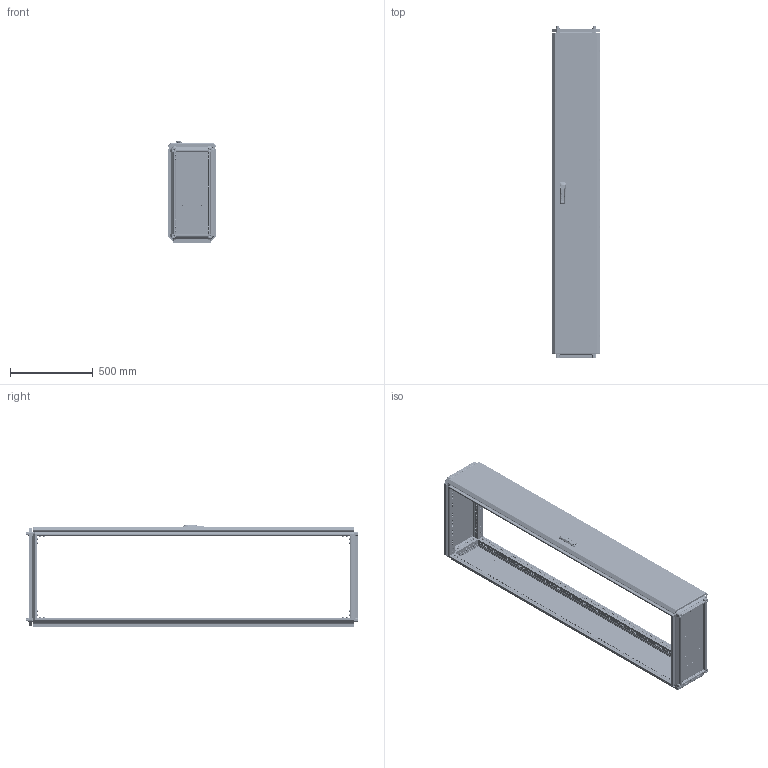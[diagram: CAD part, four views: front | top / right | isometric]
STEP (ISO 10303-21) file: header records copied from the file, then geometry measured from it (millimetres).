
FILE_DESCRIPTION (( 'STEP AP203' ), '1' );
FILE_NAME ('MA1.000.030620.10.00 AleSta2036 Øêàô AleSta 300õ600õ2000.STEP', '2024-08-23T08:18:32', ( '' ), ( '' ), 'SwSTEP 2.0', 'SolidWorks 2021', '' );
FILE_SCHEMA (( 'CONFIG_CONTROL_DESIGN' ));
Length unit declared in the file: millimetre
Products named in the file (50): MA1.200.060620.31.03 Ðåéêà íà äâåðü ãîðèçîíòàëüíàÿ Ø = 600_˜=300; 諘蜱齁罻 022 瀁錒瀔隮; ﾇﾀﾊﾋﾅﾏﾊﾀ ﾃﾀﾅﾗﾍﾀﾟ ﾘﾅﾑﾒﾈﾃﾐﾀﾍﾍﾀﾟ ﾑ ﾓﾌﾅﾍﾜﾘﾅﾍﾍﾛﾌ ﾁﾎﾐﾒﾎﾌ M4 X 11 (0.5-2.5 ﾌﾌ) HEX U-S ﾖﾈﾍﾊ; Îñü ïåòëè 4õ52_‚¨­â A.M4x0,5x40 ƒŽ‘’ 11644-75; MA1.101.060620.20.01 Ïîëîòíî íèæíåé ïàíåëè 600õ600_300å600; êðåïëåíèå_êðóãëîé_òÿãè_RG1020-1.stp; MA1.101.060620.20.00 Íèæíÿÿ ïàíåëü 600õ600_300å600; MA1.200.060620.31.01 Ïîëîòíî äâåðè ñïëîøíîé 2000õ600_2000å300; MA1.101.060620.00.02 Ïðîôèëü ïîïåðå÷íûé ñâàðíîé_01 L=498 (˜=600); ﾘ琺矜 65ﾃ 019 ﾃﾎﾑﾒ 6402-70_12; Âèíò_ðåçüáîâûäàâëèâàþùèé_Ì5õ12_DIN 7500E_Œ5å12; MA1.102.060620.00.01 Ïðîôèëü âåðòèêàëüíûé ñâàðíîé_04 L=1898 (‚=2000); MA1.200.060620.11.00 Ïàíåëü çàäíÿÿ, äëÿ øêàôîâ AleSta, 2000x600_2000å300; Øàéáà ñòîïîðíàÿ ñ íàðóæíûìè çóáöàìè SCHNORR, òèï VS öèíêîâûå õëîïüÿ Ì6 O6,4 ART 88121_Œ6; Âèíò ñ âí. øåñòèãðàííèêîì M12 DIN912_•30; MA1.200.060620.31.02 Ðåéêà íà äâåðü âåðòèêàëüíàÿ Â = 2000_‚ =2000; MA1.200.060620.31.04 ðèãåëü çàìêà äâåðè; MA1.102.060620.00.00 AleSta-VG2000 Ñòîéêè âåðòèêàëüíûå, Â=2000ìì  (4øò)_300å600; äåðæàòåëü_êðóãëîé_òÿãèRG002-RG1010-2-i-RG1010-3-.stp; Ãàéêà ñàìîêîíòðÿùàÿñÿ ñ íåéëîíîâîé âñòàâêîé Ì6 DIN 985, êëàññ ïðî÷íîñòè 8, îöèíêîâàííàÿ ñòàëü_Œ5; Óïëîòíèòåëü ïàíåëè íèæíåé_   ‚=2000; Âèíò_ðåçüáîâûäàâëèâàþùèé_Ì5õ12_DIN 7500E_00; Áîëò øåñòèãðàííûé Ì5õ12 DIN 933, êëàññ ïðî÷íîñòè 8.8, îöèíêîâàííàÿ ñòàëü; Íàâåñêà íà êîðïóñ ïîä êëåïêó; MA1.200.060620.31.05 Óãëîâîé óïîð äâåðíîé òÿãè; MA1.100.060620.00.01 Ñîåäèíèòåëü óãëîâîé_00; Âèíò ðåçüáîâûäàâëèâàþùèé Ì6õ12 DIN 7500E_Œ6å10; MA1.101.060620.20.02 Çàêðûòèå íèæíåé ïàíåëè 600õ600_300x600; MA1.101.060620.10.01 Ïîëîòíî êðûøè 600õ600_300x600; Âèíò ñàìîíàðåçàþùèé ñ ïîòàéíîé ãîëîâêîé Ì5x14 DIN 7500 M TORX, êëàññ ïðî÷íîñòè 8.8, îöèíêîâàííàÿ ñòàëü_Œ5å14; MA1.101.060620.00.02 Ïðîôèëü ïîïåðå÷íûé ñâàðíîé_03 L=198 (˜=300); MA1.101.060620.00.00 AleSta-RB66 Êîìïëåêò êðûøà è îñíîâàíèå_300x600; Øïèëüêà Ì6õ12_˜¯¨«ìª  Œ6å16; 7380-2 ISO Âèíòû ñ ïîëóêðóãëîé ãîëîâêîé ñ ôëàíöåì ñ âíóòðåííèì øåñòèãðàííèêîì Ì4õ10; MA1.200.060620.10.00 AleSta-PR206  Ïàíåëü çàäíÿÿ, äëÿ øêàôîâ ALESTA, 2000 x 600_2000å300; MA1.200.060620.30.00 AleSta-D20M600 Äâåðü ñïëîøíàÿ äëÿ øêàôîâ ALESTA ÂõØ 2000õ600_2000å300; ﾘ琺矜 01.019 ﾃﾎﾑﾒ11371-78_12; MA1.200.060620.31.00 Äâåðü ñïëîøíàÿ äëÿ øêàôîâ ALESTA ÂõØ 2000õ600_2000å300; MA1.000.030620.10.00 AleSta2036 Øêàô AleSta 300õ600õ2000; Øïèëüêà Ì6õ12_˜¯¨«ìª  Œ6å12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
Assembly tree (329 placements, depth 4):
  MA1.000.030620.10.00 AleSta2036 Øêàô AleSta 300õ600õ2000
    MA1.101.060620.00.00 AleSta-RB66 Êîìïëåêò êðûøà è îñíîâàíèå_300x600
      MA1.101.060620.00.02 Ïðîôèëü ïîïåðå÷íûé ñâàðíîé_01 L=498 (˜=600)  x4
      MA1.101.060620.00.02 Ïðîôèëü ïîïåðå÷íûé ñâàðíîé_03 L=198 (˜=300)  x4
      MA1.101.060620.10.00 Êðûøà 600x600_300å600
        MA1.101.060620.10.01 Ïîëîòíî êðûøè 600õ600_300x600
        Øïèëüêà Ì6õ12_˜¯¨«ìª  Œ6å12  x4
        Óïëîòíèòåëü ïàíåëè íèæíåé_300å600
      MA1.101.060620.20.00 Íèæíÿÿ ïàíåëü 600õ600_300å600
        MA1.101.060620.20.01 Ïîëîòíî íèæíåé ïàíåëè 600õ600_300å600
        ﾇﾀﾊﾋﾅﾏﾊﾀ ﾃﾀﾅﾗﾍﾀﾟ ﾘﾅﾑﾒﾈﾃﾐﾀﾍﾍﾀﾟ ﾑ ﾓﾌﾅﾍﾜﾘﾅﾍﾍﾛﾌ ﾁﾎﾐﾒﾎﾌ M4 X 11 (0.5-2.5 ﾌﾌ) HEX U-S ﾖﾈﾍﾊ  x4
        MA1.101.060620.20.02 Çàêðûòèå íèæíåé ïàíåëè 600õ600_300x600  x2
        7380-2 ISO Âèíòû ñ ïîëóêðóãëîé ãîëîâêîé ñ ôëàíöåì ñ âíóòðåííèì øåñòèãðàííèêîì Ì4õ10  x4
      Âèíò_ðåçüáîâûäàâëèâàþùèé_Ì5õ12_DIN 7500E_Œ5å12  x8
      MA1.100.060620.00.01 Ñîåäèíèòåëü óãëîâîé_00  x8
      Âèíò ñ âí. øåñòèãðàííèêîì M12 DIN912_•30  x4
      Âèíò ðåçüáîâûäàâëèâàþùèé Ì6õ12 DIN 7500E_Œ6å10  x96
      ﾘ琺矜 01.019 ﾃﾎﾑﾒ11371-78_12  x4
      ﾘ琺矜 65ﾃ 019 ﾃﾎﾑﾒ 6402-70_12  x4
      Øàéáà ñòîïîðíàÿ ñ íàðóæíûìè çóáöàìè SCHNORR, òèï VS öèíêîâûå õëîïüÿ Ì6 O6,4 ART 88121_Œ6  x80
    MA1.102.060620.00.00 AleSta-VG2000 Ñòîéêè âåðòèêàëüíûå, Â=2000ìì  (4øò)_300å600
      MA1.102.060620.00.01 Ïðîôèëü âåðòèêàëüíûé ñâàðíîé_04 L=1898 (‚=2000)  x4
    MA1.200.060620.10.00 AleSta-PR206  Ïàíåëü çàäíÿÿ, äëÿ øêàôîâ ALESTA, 2000 x 600_2000å300
      MA1.200.060620.11.00 Ïàíåëü çàäíÿÿ, äëÿ øêàôîâ AleSta, 2000x600_2000å300
        MA1.200.060620.11.01 Ïîëîòíî çàäíåé ïàíåëè 2000õ600_2000å300
        Óïëîòíèòåëü ïàíåëè íèæíåé_   ‚=2000
        Øïèëüêà Ì6õ12_˜¯¨«ìª  Œ6å12  x4
      Âèíò ñàìîíàðåçàþùèé ñ ïîòàéíîé ãîëîâêîé Ì5x14 DIN 7500 M TORX, êëàññ ïðî÷íîñòè 8.8, îöèíêîâàííàÿ ñòàëü_Œ5å14  x8
    MA1.200.060620.30.00 AleSta-D20M600 Äâåðü ñïëîøíàÿ äëÿ øêàôîâ ALESTA ÂõØ 2000õ600_2000å300
      MA1.200.060620.31.00 Äâåðü ñïëîøíàÿ äëÿ øêàôîâ ALESTA ÂõØ 2000õ600_2000å300
        MA1.200.060620.31.01 Ïîëîòíî äâåðè ñïëîøíîé 2000õ600_2000å300
        Óïëîòíèòåëü ïàíåëè íèæíåé_   ‚=2000
        Øïèëüêà Ì6õ12_˜¯¨«ìª  Œ6å20  x12
        Øïèëüêà Ì6õ12_˜¯¨«ìª  Œ6å16  x4
        Ïåòëÿ íà äâåðü ï-îáðàçíàÿ  x4
      MA1.200.060620.31.03 Ðåéêà íà äâåðü ãîðèçîíòàëüíàÿ Ø = 600_˜=300  x2
      諘蜱齁罻 022 瀁錒瀔隮  x4
      MA1.200.060620.31.02 Ðåéêà íà äâåðü âåðòèêàëüíàÿ Â = 2000_‚ =2000  x2
      äåðæàòåëü_êðóãëîé_òÿãèRG002-RG1010-2-i-RG1010-3-.stp  x2
      òÿãà_lg001-2.STEP_‚=2000  x2
      êðåïëåíèå_êðóãëîé_òÿãè_RG1020-1.stp  x2
      MS463-2-3(1)
      Ãàéêà ñàìîêîíòðÿùàÿñÿ ñ íåéëîíîâîé âñòàâêîé Ì6 DIN 985, êëàññ ïðî÷íîñòè 8, îöèíêîâàííàÿ ñòàëü_Œ6  x12
      Ãàéêà ñàìîêîíòðÿùàÿñÿ ñ íåéëîíîâîé âñòàâêîé Ì6 DIN 985, êëàññ ïðî÷íîñòè 8, îöèíêîâàííàÿ ñòàëü_Œ5  x2
      Áîëò øåñòèãðàííûé Ì5õ12 DIN 933, êëàññ ïðî÷íîñòè 8.8, îöèíêîâàííàÿ ñòàëü  x2
      MA1.200.060620.31.04 ðèãåëü çàìêà äâåðè
      MA1.200.060620.31.05 Óãëîâîé óïîð äâåðíîé òÿãè  x2
      Âèíò_ðåçüáîâûäàâëèâàþùèé_Ì5õ12_DIN 7500E_00  x2
      Íàâåñêà íà êîðïóñ ïîä êëåïêó  x4
      Îñü ïåòëè 4õ52_‚¨­â A.M4x0,5x40 ƒŽ‘’ 11644-75  x4
      Âèíò ñàìîíàðåçàþùèé ñ ïîòàéíîé ãîëîâêîé Ì5x14 DIN 7500 M TORX, êëàññ ïðî÷íîñòè 8.8, îöèíêîâàííàÿ ñòàëü_Œ5å12  x8
  Ïðîáêà ïëàñòèêîâàÿ óíèâåðñàëüíàÿ ïîä îòâåðñòèå 4,5 ìì, ñåðèÿ ST, öâåò áåñöâåòíûé – ST4,5
Bounding box: 292 x 2010.9 x 616.8 mm (x, y, z)
Volume: 6817788 mm3; surface area: 7983702.5 mm2
Topology: 356 solids, 370 shells, 22943 faces, 59038 edges, 36944 vertices
Faces by surface type: plane 13789, cylinder 6517, bspline 873, cone 837, torus 829, sphere 98
Entity records: 243392 total; most frequent: CARTESIAN_POINT 78973, ORIENTED_EDGE 31442, DIRECTION 30904, EDGE_CURVE 15738, AXIS2_PLACEMENT_3D 10612, VERTEX_POINT 9789, VECTOR 9680, LINE 9680
